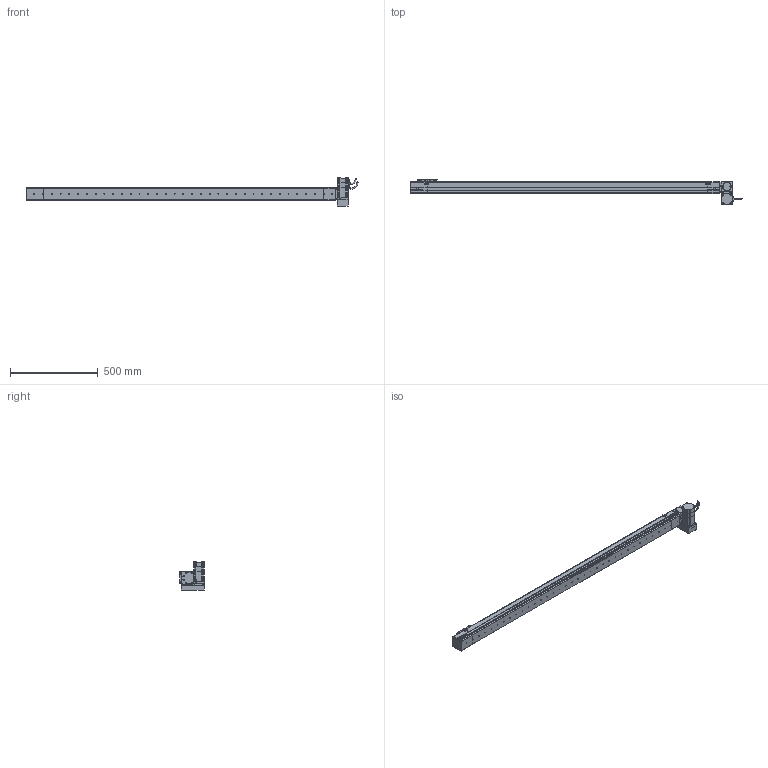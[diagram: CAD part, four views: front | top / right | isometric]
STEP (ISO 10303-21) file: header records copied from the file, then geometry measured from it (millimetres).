
FILE_DESCRIPTION (( 'STEP AP214' ), '1' );
FILE_NAME ('S07 CBN RU S1600.STEP', '2010-06-29T10:54:12', ( 'Conseil Régional Haute-Normandie' ), ( 'Conseil Régional Haute-Normandie' ), 'SwSTEP 2.0', 'SolidWorks 2010', '' );
FILE_SCHEMA (( 'AUTOMOTIVE_DESIGN' ));
Length unit declared in the file: millimetre
Products named in the file (31): Corp Tail_Default; support chariot_Default; chariot_Default; Chariot S07_Default; vis M5 L8_Default; vis M5 L15_Default; plaque de serrage Tail_Default; Plaque de bout Tail_Default; Couvercle Tail_Default; S07 CBN RU S1600; Couvercle RU_Default; Corp RU_Default; Head RU_Default; Rondelle de Serrage RU_Default; plaque de serrage RU_Default; Plaque de bout RU_Default; 60BLDC90A-640_Default; Cache Support Moteur RU_Default; Support Moteur RU_Default; P3 90A_Default; P2 90A_Default; P1_Default; Conecteur 60BLDC_Default; Axe 60BLDC_Default; P4_Default; Corp S07 S1600_Default; VisM3_Default; Conecteur2 60BLDC_Default; Tail S07 Tail_Default; Couvercle S07 S1600_Default
Assembly tree (71 placements, depth 4):
  S07 CBN RU S1600
    Head RU_Default
      60BLDC90A-640_Default
        VisM3_Default  x12
        Conecteur 60BLDC_Default
        Conecteur2 60BLDC_Default
        P2 90A_Default
        Axe 60BLDC_Default
        P4_Default
        P3 90A_Default
        P1_Default
      Cache Support Moteur RU_Default
      Couvercle RU_Default
      Support Moteur RU_Default
      Corp RU_Default
      vis M5 L15_Default  x16
      Rondelle de Serrage RU_Default  x3
      plaque de serrage RU_Default
      Plaque de bout RU_Default
    Corp S07 S1600_Default
      Couvercle S07 S1600_Default
      Corp S07 S1600_Default
    Chariot S07_Default
      vis M5 L8_Default  x8
      support chariot_Default
      chariot_Default
    Tail S07 Tail_Default
      Plaque de bout Tail_Default
      vis M5 L15_Default  x6
      plaque de serrage Tail_Default
      Couvercle Tail_Default
      Corp Tail_Default
Bounding box: 1893.2 x 142 x 162 mm (x, y, z)
Volume: 8894725.3 mm3; surface area: 1014706.8 mm2
Topology: 108 solids, 108 shells, 3946 faces, 9698 edges, 6244 vertices
Faces by surface type: plane 2268, bspline 756, cylinder 711, torus 112, cone 95, sphere 4
Entity records: 154793 total; most frequent: CARTESIAN_POINT 79825, ORIENTED_EDGE 14916, DIRECTION 11251, EDGE_CURVE 7458, VERTEX_POINT 4929, VECTOR 4809, LINE 4809, AXIS2_PLACEMENT_3D 3221
